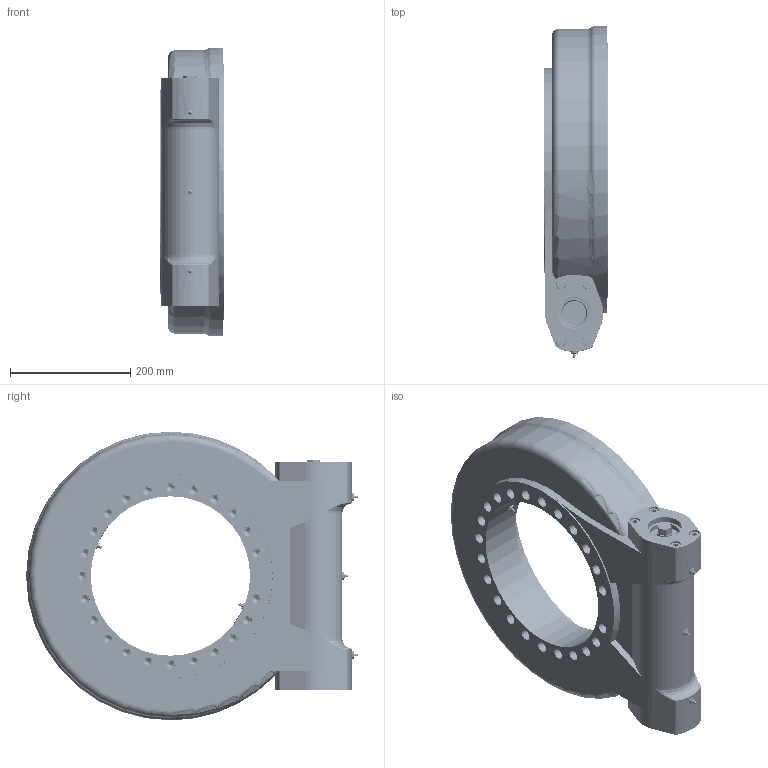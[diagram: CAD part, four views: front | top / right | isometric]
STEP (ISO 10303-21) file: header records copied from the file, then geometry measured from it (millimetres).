
FILE_DESCRIPTION(/* description */ (''),/* implementation_level */ '2;1');
FILE_NAME(/* name */ 'WEA342Z-0-HR.stp',/* time_stamp */ '2024-04-08T09:57:08+08:00',/* author */ (''),/* organization */ (''),/* preprocessor_version */ 'ST-DEVELOPER v16',/* originating_system */ 'SIEMENS PLM Software NX 10.0',/* authorisation */ '');
FILE_SCHEMA (('AP203_CONFIGURATION_CONTROLLED_3D_DESIGN_OF_MECHANICAL_PARTS_AND_ASSEMBLIES_MIM_LF { 1 0 10303 403 2 1 2}'));
Products named in the file (1): ASUS3EEC5ABFloum
Bounding box: 108 x 551.8 x 480 mm (x, y, z)
Volume: 9996947.3 mm3; surface area: 1542122.5 mm2
Topology: 23 solids, 64 shells, 1607 faces, 3776 edges, 2352 vertices
Faces by surface type: cylinder 612, plane 478, cone 258, bspline 148, torus 99, sphere 12
Full cylindrical faces by diameter (mm): 14 x2, 14.5 x1, 18 x1
Entity records: 182050 total; most frequent: CARTESIAN_POINT 146527, DIRECTION 7410, ORIENTED_EDGE 7052, EDGE_CURVE 3526, AXIS2_PLACEMENT_3D 3028, VERTEX_POINT 2310, EDGE_LOOP 1916, ADVANCED_FACE 1607
